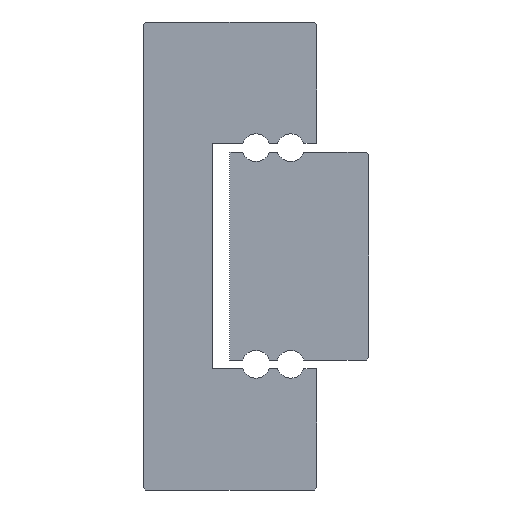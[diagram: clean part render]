
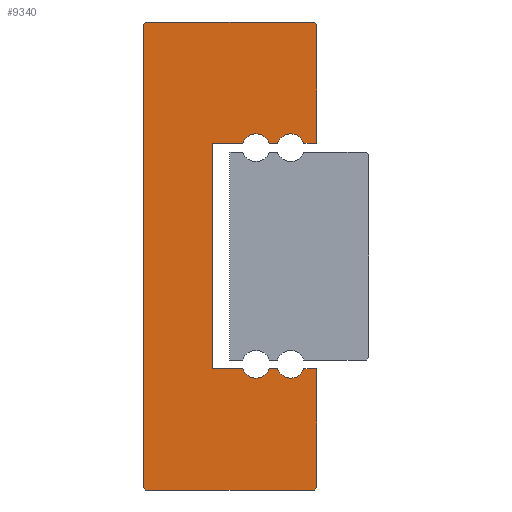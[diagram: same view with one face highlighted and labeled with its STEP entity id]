
A CAD part, left-side view. The second image highlights one B-rep face of the part: STEP entity #9340.
In plain terms, the highlighted planar face has unit normal (-1, 0, 0).
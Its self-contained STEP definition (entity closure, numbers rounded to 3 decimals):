
#304=CIRCLE('',#10146,0.8);
#306=CIRCLE('',#10150,0.8);
#308=CIRCLE('',#10156,0.8);
#310=CIRCLE('',#10160,0.8);
#1568=ORIENTED_EDGE('',*,*,#3916,.F.);
#1569=ORIENTED_EDGE('',*,*,#4362,.F.);
#1570=ORIENTED_EDGE('',*,*,#4359,.F.);
#1571=ORIENTED_EDGE('',*,*,#4350,.F.);
#1572=ORIENTED_EDGE('',*,*,#4347,.F.);
#1573=ORIENTED_EDGE('',*,*,#4344,.F.);
#1574=ORIENTED_EDGE('',*,*,#4341,.F.);
#1575=ORIENTED_EDGE('',*,*,#4338,.F.);
#1576=ORIENTED_EDGE('',*,*,#4335,.T.);
#1577=ORIENTED_EDGE('',*,*,#4332,.F.);
#1578=ORIENTED_EDGE('',*,*,#4329,.T.);
#1579=ORIENTED_EDGE('',*,*,#4326,.F.);
#1580=ORIENTED_EDGE('',*,*,#4323,.F.);
#1581=ORIENTED_EDGE('',*,*,#4320,.F.);
#1582=ORIENTED_EDGE('',*,*,#4317,.T.);
#1583=ORIENTED_EDGE('',*,*,#4314,.F.);
#1584=ORIENTED_EDGE('',*,*,#4311,.T.);
#1585=ORIENTED_EDGE('',*,*,#4308,.F.);
#1586=ORIENTED_EDGE('',*,*,#4305,.F.);
#1587=ORIENTED_EDGE('',*,*,#4302,.F.);
#3916=EDGE_CURVE('',#5346,#5347,#6314,.T.);
#4302=EDGE_CURVE('',#5347,#5732,#6452,.T.);
#4305=EDGE_CURVE('',#5732,#5734,#6455,.T.);
#4308=EDGE_CURVE('',#5734,#5736,#6458,.T.);
#4311=EDGE_CURVE('',#5738,#5736,#304,.T.);
#4314=EDGE_CURVE('',#5738,#5740,#6462,.T.);
#4317=EDGE_CURVE('',#5742,#5740,#306,.T.);
#4320=EDGE_CURVE('',#5742,#5744,#6466,.T.);
#4323=EDGE_CURVE('',#5744,#5746,#6469,.T.);
#4326=EDGE_CURVE('',#5746,#5748,#6472,.T.);
#4329=EDGE_CURVE('',#5750,#5748,#308,.T.);
#4332=EDGE_CURVE('',#5750,#5752,#6476,.T.);
#4335=EDGE_CURVE('',#5754,#5752,#310,.T.);
#4338=EDGE_CURVE('',#5754,#5756,#6480,.T.);
#4341=EDGE_CURVE('',#5756,#5758,#6483,.T.);
#4344=EDGE_CURVE('',#5758,#5760,#6486,.T.);
#4347=EDGE_CURVE('',#5760,#5762,#6489,.T.);
#4350=EDGE_CURVE('',#5762,#5764,#6492,.T.);
#4359=EDGE_CURVE('',#5764,#5772,#6495,.T.);
#4362=EDGE_CURVE('',#5772,#5346,#6498,.T.);
#5346=VERTEX_POINT('',#14263);
#5347=VERTEX_POINT('',#14264);
#5732=VERTEX_POINT('',#15036);
#5734=VERTEX_POINT('',#15042);
#5736=VERTEX_POINT('',#15048);
#5738=VERTEX_POINT('',#15054);
#5740=VERTEX_POINT('',#15060);
#5742=VERTEX_POINT('',#15066);
#5744=VERTEX_POINT('',#15072);
#5746=VERTEX_POINT('',#15078);
#5748=VERTEX_POINT('',#15084);
#5750=VERTEX_POINT('',#15090);
#5752=VERTEX_POINT('',#15096);
#5754=VERTEX_POINT('',#15102);
#5756=VERTEX_POINT('',#15108);
#5758=VERTEX_POINT('',#15114);
#5760=VERTEX_POINT('',#15120);
#5762=VERTEX_POINT('',#15126);
#5764=VERTEX_POINT('',#15132);
#5772=VERTEX_POINT('',#15150);
#6314=LINE('',#14262,#7130);
#6452=LINE('',#15035,#7268);
#6455=LINE('',#15041,#7271);
#6458=LINE('',#15047,#7274);
#6462=LINE('',#15059,#7278);
#6466=LINE('',#15071,#7282);
#6469=LINE('',#15077,#7285);
#6472=LINE('',#15083,#7288);
#6476=LINE('',#15095,#7292);
#6480=LINE('',#15107,#7296);
#6483=LINE('',#15113,#7299);
#6486=LINE('',#15119,#7302);
#6489=LINE('',#15125,#7305);
#6492=LINE('',#15131,#7308);
#6495=LINE('',#15149,#7311);
#6498=LINE('',#15155,#7314);
#7130=VECTOR('',#11133,1000.);
#7268=VECTOR('',#11769,1000.);
#7271=VECTOR('',#11774,1000.);
#7274=VECTOR('',#11779,1000.);
#7278=VECTOR('',#11791,1000.);
#7282=VECTOR('',#11803,1000.);
#7285=VECTOR('',#11808,1000.);
#7288=VECTOR('',#11813,1000.);
#7292=VECTOR('',#11825,1000.);
#7296=VECTOR('',#11837,1000.);
#7299=VECTOR('',#11842,1000.);
#7302=VECTOR('',#11847,1000.);
#7305=VECTOR('',#11852,1000.);
#7308=VECTOR('',#11857,1000.);
#7311=VECTOR('',#11874,1000.);
#7314=VECTOR('',#11879,1000.);
#7996=EDGE_LOOP('',(#1568,#1569,#1570,#1571,#1572,#1573,#1574,#1575,#1576,
#1577,#1578,#1579,#1580,#1581,#1582,#1583,#1584,#1585,#1586,#1587));
#8582=FACE_BOUND('',#7996,.T.);
#9115=PLANE('',#10176);
#9340=ADVANCED_FACE('',(#8582),#9115,.F.);
#10146=AXIS2_PLACEMENT_3D('',#15053,#11784,#11785);
#10150=AXIS2_PLACEMENT_3D('',#15065,#11796,#11797);
#10156=AXIS2_PLACEMENT_3D('',#15089,#11818,#11819);
#10160=AXIS2_PLACEMENT_3D('',#15101,#11830,#11831);
#10176=AXIS2_PLACEMENT_3D('',#15158,#11883,#11884);
#11133=DIRECTION('',(0.,-1.,0.));
#11769=DIRECTION('',(0.,-0.707,-0.707));
#11774=DIRECTION('',(0.,0.,-1.));
#11779=DIRECTION('',(0.,1.,0.));
#11784=DIRECTION('',(1.,0.,0.));
#11785=DIRECTION('',(0.,0.,-1.));
#11791=DIRECTION('',(0.,1.,0.));
#11796=DIRECTION('',(1.,0.,0.));
#11797=DIRECTION('',(0.,0.,-1.));
#11803=DIRECTION('',(0.,1.,0.));
#11808=DIRECTION('',(0.,0.,-1.));
#11813=DIRECTION('',(0.,-1.,0.));
#11818=DIRECTION('',(1.,0.,0.));
#11819=DIRECTION('',(0.,0.,-1.));
#11825=DIRECTION('',(0.,-1.,0.));
#11830=DIRECTION('',(1.,0.,0.));
#11831=DIRECTION('',(0.,0.,-1.));
#11837=DIRECTION('',(0.,-1.,0.));
#11842=DIRECTION('',(0.,0.,-1.));
#11847=DIRECTION('',(0.,0.707,-0.707));
#11852=DIRECTION('',(0.,1.,0.));
#11857=DIRECTION('',(0.,0.707,0.707));
#11874=DIRECTION('',(0.,0.,1.));
#11879=DIRECTION('',(0.,-0.707,0.707));
#11883=DIRECTION('',(1.,0.,0.));
#11884=DIRECTION('',(0.,0.,-1.));
#14262=CARTESIAN_POINT('',(-25.,9.85,13.5));
#14263=CARTESIAN_POINT('',(-25.,9.85,13.5));
#14264=CARTESIAN_POINT('',(-25.,0.15,13.5));
#15035=CARTESIAN_POINT('',(-25.,0.15,13.5));
#15036=CARTESIAN_POINT('',(-25.,0.,13.35));
#15041=CARTESIAN_POINT('',(-25.,0.,13.35));
#15042=CARTESIAN_POINT('',(-25.,0.,6.5));
#15047=CARTESIAN_POINT('',(-25.,0.,6.5));
#15048=CARTESIAN_POINT('',(-25.,0.74,6.5));
#15053=CARTESIAN_POINT('',(-25.,1.5,6.25));
#15054=CARTESIAN_POINT('',(-25.,2.26,6.5));
#15059=CARTESIAN_POINT('',(-25.,2.26,6.5));
#15060=CARTESIAN_POINT('',(-25.,2.74,6.5));
#15065=CARTESIAN_POINT('',(-25.,3.5,6.25));
#15066=CARTESIAN_POINT('',(-25.,4.26,6.5));
#15071=CARTESIAN_POINT('',(-25.,4.26,6.5));
#15072=CARTESIAN_POINT('',(-25.,6.,6.5));
#15077=CARTESIAN_POINT('',(-25.,6.,6.5));
#15078=CARTESIAN_POINT('',(-25.,6.,-6.5));
#15083=CARTESIAN_POINT('',(-25.,6.,-6.5));
#15084=CARTESIAN_POINT('',(-25.,4.26,-6.5));
#15089=CARTESIAN_POINT('',(-25.,3.5,-6.25));
#15090=CARTESIAN_POINT('',(-25.,2.74,-6.5));
#15095=CARTESIAN_POINT('',(-25.,2.74,-6.5));
#15096=CARTESIAN_POINT('',(-25.,2.26,-6.5));
#15101=CARTESIAN_POINT('',(-25.,1.5,-6.25));
#15102=CARTESIAN_POINT('',(-25.,0.74,-6.5));
#15107=CARTESIAN_POINT('',(-25.,0.74,-6.5));
#15108=CARTESIAN_POINT('',(-25.,0.,-6.5));
#15113=CARTESIAN_POINT('',(-25.,0.,-6.5));
#15114=CARTESIAN_POINT('',(-25.,0.,-13.35));
#15119=CARTESIAN_POINT('',(-25.,0.,-13.35));
#15120=CARTESIAN_POINT('',(-25.,0.15,-13.5));
#15125=CARTESIAN_POINT('',(-25.,0.15,-13.5));
#15126=CARTESIAN_POINT('',(-25.,9.85,-13.5));
#15131=CARTESIAN_POINT('',(-25.,9.85,-13.5));
#15132=CARTESIAN_POINT('',(-25.,10.,-13.35));
#15149=CARTESIAN_POINT('',(-25.,10.,-13.35));
#15150=CARTESIAN_POINT('',(-25.,10.,13.35));
#15155=CARTESIAN_POINT('',(-25.,10.,13.35));
#15158=CARTESIAN_POINT('',(-25.,1.5,6.25));
